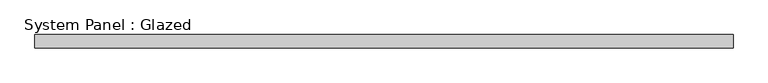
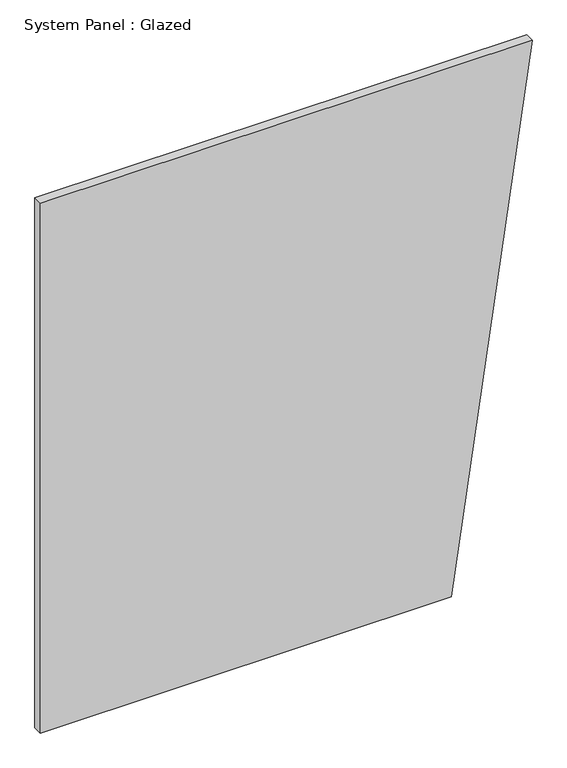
"""IFC4 building model written with IfcOpenShell, lengths in millimetres: plate geometry, System Panel : Glazed."""

from ifc_helpers import new_model, si_unit, frame, origin, place, context, project, spatial, polyline, outline, extrude, source, transform, mapped, element, save


def system_panel_glazed_4f5d3427(model_context):
    return source(origin(), model_context, "Body", "SweptSolid", [
        extrude(outline(polyline([(0.0, -668.8057552), (0.0, 449.5251797), (1524.0, 668.8057552), (1524.0, -668.8057552), (0.0, -668.8057552)])), frame((0.0, 19.05, 0.0), z_axis=(0.0, 1.0, 0.0), x_axis=(0.0, 0.0, 1.0)), (0.0, 0.0, 1.0), 25.4),
    ])


if __name__ == "__main__":
    model = new_model("IFC4")
    model_context = context("Model", 3, world=origin())
    ifc_project = project(units=[si_unit("LENGTHUNIT", "METRE", prefix="MILLI")], contexts=[model_context])
    site = spatial("IfcSite", under=ifc_project)
    building = spatial("IfcBuilding", under=site)
    placement = place(None, origin())
    system_panel_glazed_shape = system_panel_glazed_4f5d3427(model_context)
    element("IfcPlate", 1, ObjectType="System Panel : Glazed", at=placement, inside=building, context=model_context, shape_type="MappedRepresentation", body=[
        mapped(system_panel_glazed_shape, transform((0.0, 0.0, 0.0), x_axis=(1.0, 0.0, 0.0), y_axis=(0.0, 1.0, 0.0), z_axis=(0.0, 0.0, 1.0))),
    ])
    save(model, "model.ifc")
